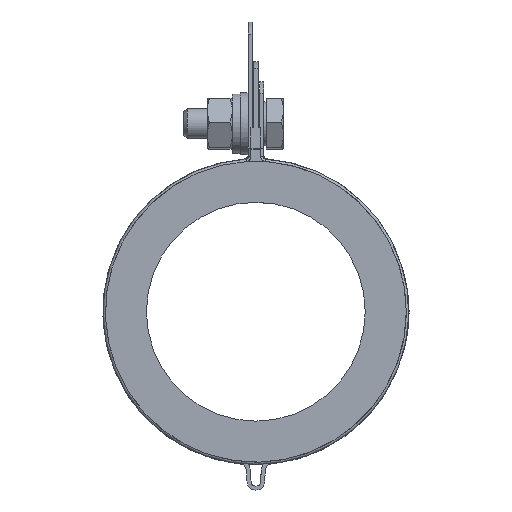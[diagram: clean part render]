
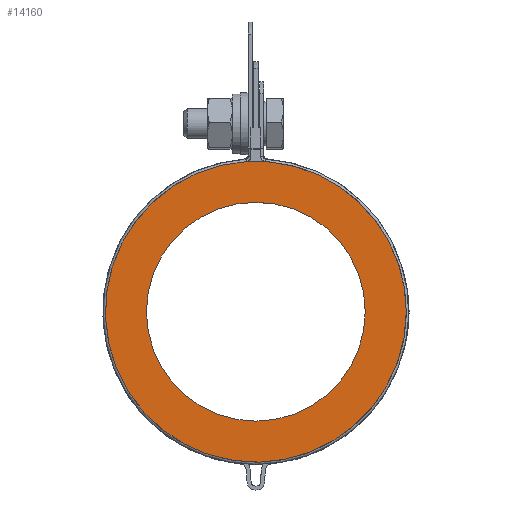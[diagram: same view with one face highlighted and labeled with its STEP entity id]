
A CAD part, front view. The second image highlights one B-rep face of the part: STEP entity #14160.
In plain terms, the highlighted planar face has unit normal (0, -1, 0).
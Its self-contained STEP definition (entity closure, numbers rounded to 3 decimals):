
#272=FACE_BOUND($,#2528,.T.);
#816=PLANE($,#15583);
#1565=FACE_OUTER_BOUND($,#2527,.T.);
#2527=EDGE_LOOP($,(#12161));
#2528=EDGE_LOOP($,(#12162));
#5448=CIRCLE($,#15448,30.25);
#5453=CIRCLE($,#15580,22.);
#6711=VERTEX_POINT($,#23536);
#6722=VERTEX_POINT($,#23689);
#8534=EDGE_CURVE($,#6711,#6711,#5448,.T.);
#8549=EDGE_CURVE($,#6722,#6722,#5453,.T.);
#12161=ORIENTED_EDGE($,*,*,#8534,.T.);
#12162=ORIENTED_EDGE($,*,*,#8549,.T.);
#14160=ADVANCED_FACE($,(#1565,#272),#816,.T.);
#15448=AXIS2_PLACEMENT_3D($,#23537,#19196,#19197);
#15580=AXIS2_PLACEMENT_3D($,#23690,#19470,#19471);
#15583=AXIS2_PLACEMENT_3D($,#23693,#19476,#19477);
#19196=DIRECTION('center_axis',(0.,-1.,0.));
#19197=DIRECTION('ref_axis',(-1.,0.,0.));
#19470=DIRECTION('center_axis',(0.,1.,0.));
#19471=DIRECTION('ref_axis',(1.,0.,0.));
#19476=DIRECTION('center_axis',(0.,-1.,0.));
#19477=DIRECTION('ref_axis',(0.,0.,-1.));
#23536=CARTESIAN_POINT('',(30.25,0.,0.));
#23537=CARTESIAN_POINT('Origin',(0.,0.,0.));
#23689=CARTESIAN_POINT('',(-22.,0.,0.));
#23690=CARTESIAN_POINT('Origin',(0.,0.,0.));
#23693=CARTESIAN_POINT('Origin',(0.,0.,0.));
